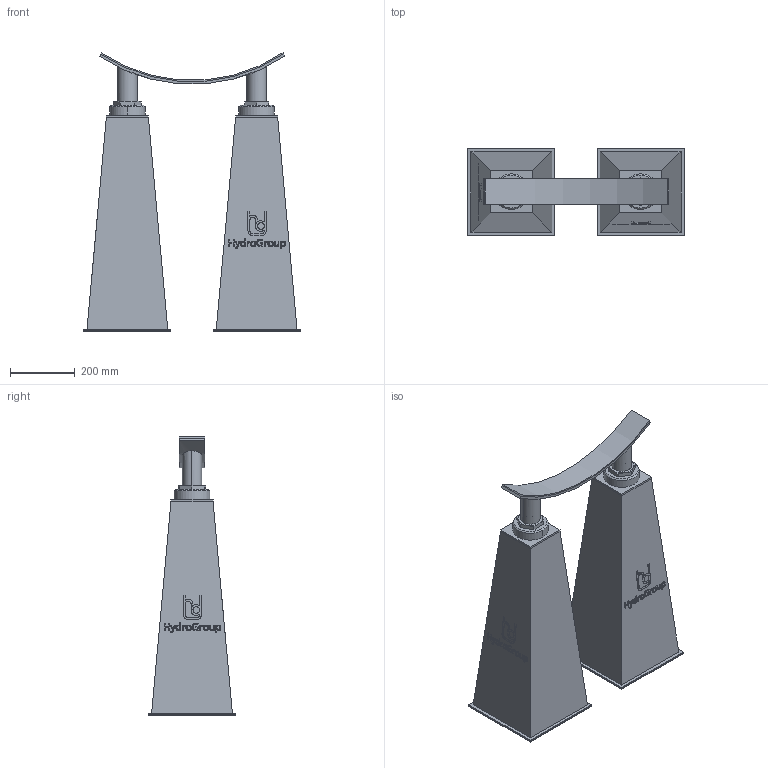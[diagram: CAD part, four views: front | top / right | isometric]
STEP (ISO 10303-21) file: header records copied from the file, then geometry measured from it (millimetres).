
FILE_DESCRIPTION(('STEP AP214'),'1');
FILE_NAME('RSRFE-I-DUO_DN1000.stp','2018-06-27T13:49:27',(' '),(' '),'Spatial InterOp 3D',' ',' ');
FILE_SCHEMA(('automotive_design'));
Length unit declared in the file: millimetre
Products named in the file (10): 1; 2; 3; 4; 5; 6; 7; 8; 9; 10
Bounding box: 670 x 270 x 862.51 mm (x, y, z)
Volume: 53213786.8 mm3; surface area: 1974771.3 mm2
Topology: 10 solids, 12 shells, 424 faces, 1050 edges, 688 vertices
Faces by surface type: plane 272, cylinder 72, extrusion 48, cone 32
Entity records: 17877 total; most frequent: CARTESIAN_POINT 4300, ORIENTED_EDGE 2100, DIRECTION 1894, EDGE_CURVE 1050, VECTOR 810, LINE 762, VERTEX_POINT 688, AXIS2_PLACEMENT_3D 542
